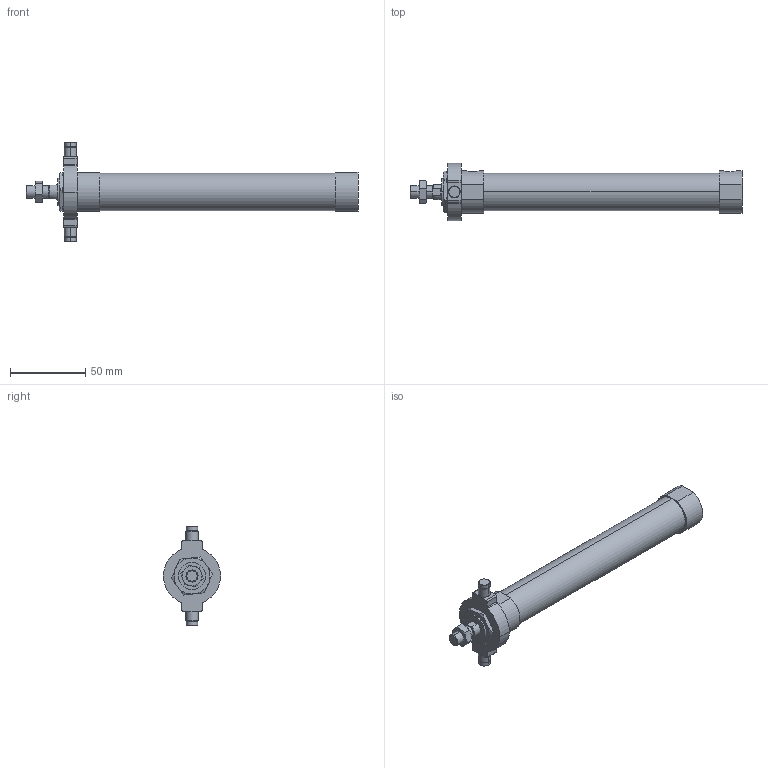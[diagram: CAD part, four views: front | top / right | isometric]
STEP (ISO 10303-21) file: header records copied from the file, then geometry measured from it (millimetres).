
FILE_DESCRIPTION (( 'STEP AP203' ), '1' );
FILE_NAME ('JGND2-20-125-T.STEP', '2016-08-04T02:32:46', ( '' ), ( '' ), 'SwSTEP 2.0', 'SolidWorks 2014', '' );
FILE_SCHEMA (( 'CONFIG_CONTROL_DESIGN' ));
Length unit declared in the file: millimetre
Products named in the file (5): JGND2-20-125-T; J#2-20-125(P); J#2-20-T
Assembly tree (4 placements, depth 2):
  JGND2-20-125-T
    J#2-20-125(P)
    (unnamed)
    (unnamed)
    J#2-20-T
Bounding box: 221 x 38 x 66 mm (x, y, z)
Volume: 109345.9 mm3; surface area: 24091.3 mm2
Topology: 4 solids, 4 shells, 123 faces, 275 edges, 170 vertices
Faces by surface type: plane 44, cylinder 43, torus 24, cone 12
Entity records: 4286 total; most frequent: CARTESIAN_POINT 1031, DIRECTION 597, ORIENTED_EDGE 550, EDGE_CURVE 275, AXIS2_PLACEMENT_3D 248, VERTEX_POINT 170, EDGE_LOOP 139, ADVANCED_FACE 123
